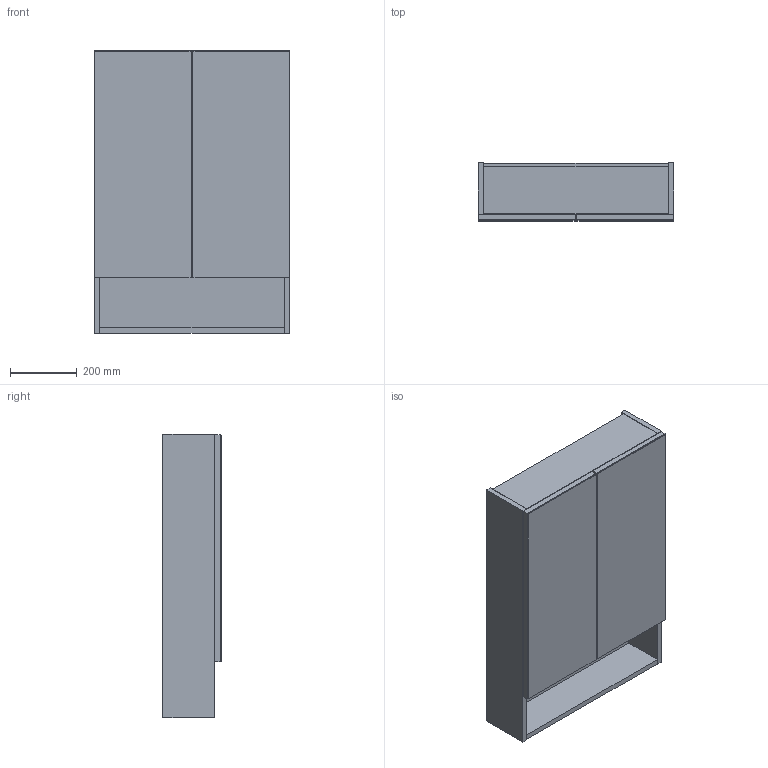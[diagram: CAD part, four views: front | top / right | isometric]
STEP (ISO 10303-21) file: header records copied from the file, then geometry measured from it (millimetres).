
FILE_DESCRIPTION(/* description */ (''),/* implementation_level */ '2;1');
FILE_NAME(/* name */ 'C:\Planerdaten\Export PLA\501.264.00.1\stp\501264.stp',/* time_stamp */ '2019-12-17T22:58:25-08:00',/* author */ ('JANAN'),/* organization */ (''),/* preprocessor_version */ 'ST-DEVELOPER v16.13',/* originating_system */ 'Autodesk Inventor 2018',/* authorisation */ '');
FILE_SCHEMA (('AUTOMOTIVE_DESIGN { 1 0 10303 214 3 1 1 }'));
Length unit declared in the file: millimetre
Products named in the file (1): SpglSchrk Ge+SnvS B60 2-Tü w
Bounding box: 588 x 175 x 851 mm (x, y, z)
Volume: 24533230 mm3; surface area: 3083608 mm2
Topology: 3 solids, 3 shells, 62 faces, 156 edges, 104 vertices
Faces by surface type: plane 62
Entity records: 1926 total; most frequent: CARTESIAN_POINT 323, ORIENTED_EDGE 312, DIRECTION 282, LINE 156, VECTOR 156, EDGE_CURVE 156, VERTEX_POINT 104, EDGE_LOOP 66
